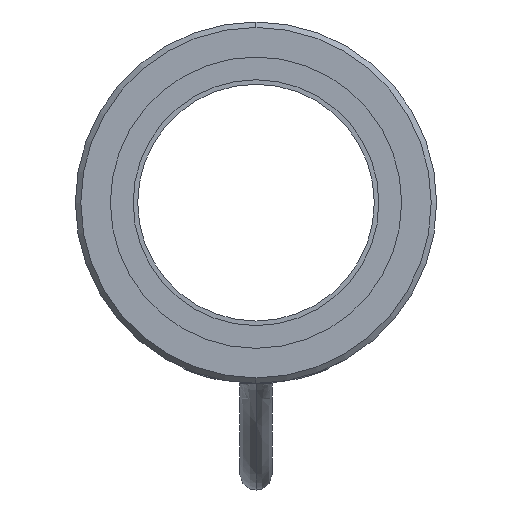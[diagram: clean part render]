
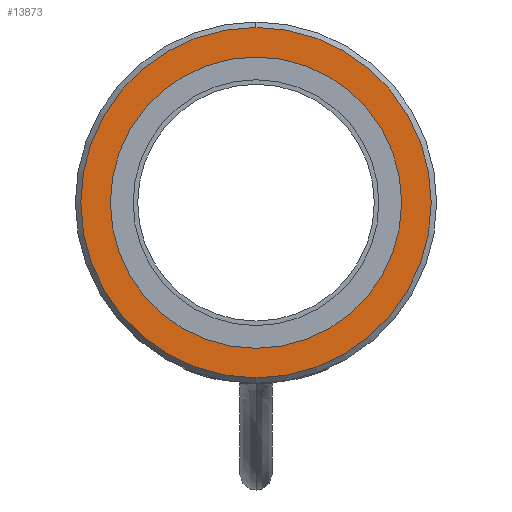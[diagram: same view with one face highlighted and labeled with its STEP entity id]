
A CAD part, left-side view. The second image highlights one B-rep face of the part: STEP entity #13873.
In plain terms, the highlighted planar face has unit normal (-1, 0, 0).
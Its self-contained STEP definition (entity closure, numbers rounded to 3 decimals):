
#33=CARTESIAN_POINT('',(0.,0.,0.));
#34=DIRECTION('',(1.,0.,0.));
#35=DIRECTION('',(0.,-1.,0.));
#36=AXIS2_PLACEMENT_3D('',#33,#34,#35);
#38=CARTESIAN_POINT('',(0.,0.,0.));
#39=DIRECTION('',(1.,0.,0.));
#40=DIRECTION('',(0.,1.,0.));
#41=AXIS2_PLACEMENT_3D('',#38,#39,#40);
#53=CARTESIAN_POINT('',(0.,0.,
0.));
#54=DIRECTION('',(-1.,0.,0.));
#55=DIRECTION('',(0.,0.,-1.));
#56=AXIS2_PLACEMENT_3D('',#53,#54,#55);
#58=CARTESIAN_POINT('',(0.,0.,0.));
#59=DIRECTION('',(-1.,0.,0.));
#60=DIRECTION('',(0.,0.,1.));
#61=AXIS2_PLACEMENT_3D('',#58,#59,#60);
#11559=CARTESIAN_POINT('',(0.,0.,-9.625));
#11560=CARTESIAN_POINT('',(0.,0.,9.625));
#11561=VERTEX_POINT('',#11559);
#11562=VERTEX_POINT('',#11560);
#11595=CARTESIAN_POINT('',(0.,-8.,0.));
#11596=CARTESIAN_POINT('',(0.,8.,0.));
#11597=VERTEX_POINT('',#11595);
#11598=VERTEX_POINT('',#11596);
#13856=CARTESIAN_POINT('',(0.,0.,0.));
#13857=DIRECTION('',(-1.,0.,0.));
#13858=DIRECTION('',(0.,0.,-1.));
#13859=AXIS2_PLACEMENT_3D('',#13856,#13857,#13858);
#13860=PLANE('',#13859);
#13862=ORIENTED_EDGE('',*,*,#13861,.F.);
#13864=ORIENTED_EDGE('',*,*,#13863,.F.);
#13865=EDGE_LOOP('',(#13862,#13864));
#13866=FACE_OUTER_BOUND('',#13865,.F.);
#13868=ORIENTED_EDGE('',*,*,#13867,.F.);
#13870=ORIENTED_EDGE('',*,*,#13869,.F.);
#13871=EDGE_LOOP('',(#13868,#13870));
#13872=FACE_BOUND('',#13871,.F.);
#13873=ADVANCED_FACE('',(#13866,#13872),#13860,.T.);
#37=CIRCLE('',#36,8.);
#42=CIRCLE('',#41,8.);
#57=CIRCLE('',#56,9.625);
#62=CIRCLE('',#61,9.625);
#13861=EDGE_CURVE('',#11561,#11562,#57,.T.);
#13863=EDGE_CURVE('',#11562,#11561,#62,.T.);
#13867=EDGE_CURVE('',#11597,#11598,#37,.T.);
#13869=EDGE_CURVE('',#11598,#11597,#42,.T.);
